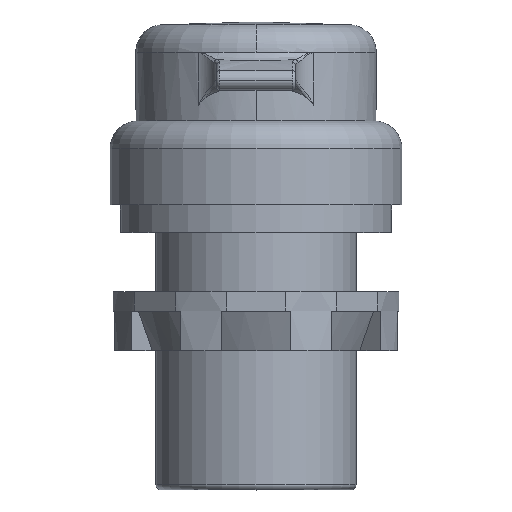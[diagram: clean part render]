
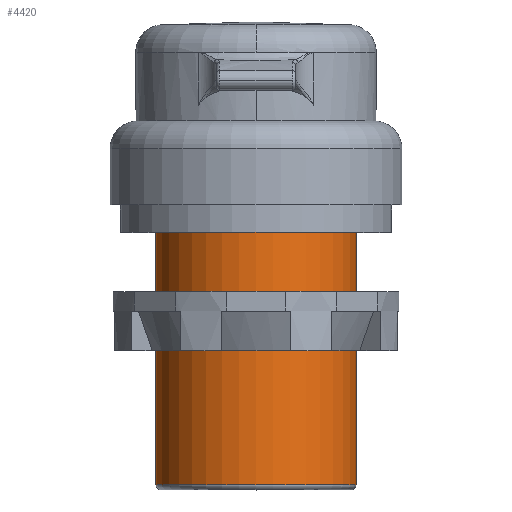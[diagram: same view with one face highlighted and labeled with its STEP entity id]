
A CAD part, top view. The second image highlights one B-rep face of the part: STEP entity #4420.
In plain terms, the highlighted cylindrical face has radius 10.15 mm (diameter 20.3 mm), a partial arc.
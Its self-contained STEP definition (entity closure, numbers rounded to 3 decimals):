
#218 = CARTESIAN_POINT ( 'NONE',  ( -10.15, -25.6, 0. ) ) ;
#534 = DIRECTION ( 'NONE',  ( 0., 1., 0. ) ) ;
#665 = EDGE_CURVE ( 'NONE', #3069, #827, #6390, .T. ) ;
#815 = ORIENTED_EDGE ( 'NONE', *, *, #4106, .T. ) ;
#818 = CYLINDRICAL_SURFACE ( 'NONE', #4437, 10.15 ) ;
#827 = VERTEX_POINT ( 'NONE', #983 ) ;
#879 = CARTESIAN_POINT ( 'NONE',  ( 10.15, 0., 0. ) ) ;
#889 = EDGE_CURVE ( 'NONE', #3069, #2085, #7197, .T. ) ;
#983 = CARTESIAN_POINT ( 'NONE',  ( -10.15, 0., 0. ) ) ;
#1028 = EDGE_LOOP ( 'NONE', ( #3750, #815, #3978, #4704 ) ) ;
#1406 = CARTESIAN_POINT ( 'NONE',  ( 0., 0., 0. ) ) ;
#1993 = DIRECTION ( 'NONE',  ( -1., 0., 0. ) ) ;
#2085 = VERTEX_POINT ( 'NONE', #6234 ) ;
#2281 = EDGE_CURVE ( 'NONE', #827, #3646, #6286, .T. ) ;
#3004 = LINE ( 'NONE', #5141, #6045 ) ;
#3069 = VERTEX_POINT ( 'NONE', #218 ) ;
#3101 = DIRECTION ( 'NONE',  ( 0., 1., 0. ) ) ;
#3646 = VERTEX_POINT ( 'NONE', #879 ) ;
#3667 = CARTESIAN_POINT ( 'NONE',  ( 0., -23.875, 0. ) ) ;
#3745 = DIRECTION ( 'NONE',  ( 0., 1., 0. ) ) ;
#3750 = ORIENTED_EDGE ( 'NONE', *, *, #889, .T. ) ;
#3978 = ORIENTED_EDGE ( 'NONE', *, *, #2281, .F. ) ;
#4001 = CARTESIAN_POINT ( 'NONE',  ( 0., -25.6, 0. ) ) ;
#4106 = EDGE_CURVE ( 'NONE', #2085, #3646, #3004, .T. ) ;
#4420 = ADVANCED_FACE ( 'NONE', ( #6965 ), #818, .T. ) ;
#4437 = AXIS2_PLACEMENT_3D ( 'NONE', #3667, #3101, #5947 ) ;
#4578 = DIRECTION ( 'NONE',  ( 1., 0., 0. ) ) ;
#4704 = ORIENTED_EDGE ( 'NONE', *, *, #665, .F. ) ;
#4923 = AXIS2_PLACEMENT_3D ( 'NONE', #1406, #5443, #1993 ) ;
#4945 = AXIS2_PLACEMENT_3D ( 'NONE', #4001, #534, #4578 ) ;
#5141 = CARTESIAN_POINT ( 'NONE',  ( 10.15, -23.875, 0. ) ) ;
#5443 = DIRECTION ( 'NONE',  ( 0., 1., 0. ) ) ;
#5947 = DIRECTION ( 'NONE',  ( -1., 0., 0. ) ) ;
#6045 = VECTOR ( 'NONE', #7425, 1000. ) ;
#6198 = VECTOR ( 'NONE', #3745, 1000. ) ;
#6234 = CARTESIAN_POINT ( 'NONE',  ( 10.15, -25.6, 0. ) ) ;
#6286 = CIRCLE ( 'NONE', #4923, 10.15 ) ;
#6390 = LINE ( 'NONE', #7193, #6198 ) ;
#6965 = FACE_OUTER_BOUND ( 'NONE', #1028, .T. ) ;
#7193 = CARTESIAN_POINT ( 'NONE',  ( -10.15, -23.875, 0. ) ) ;
#7197 = CIRCLE ( 'NONE', #4945, 10.15 ) ;
#7425 = DIRECTION ( 'NONE',  ( 0., 1., 0. ) ) ;
